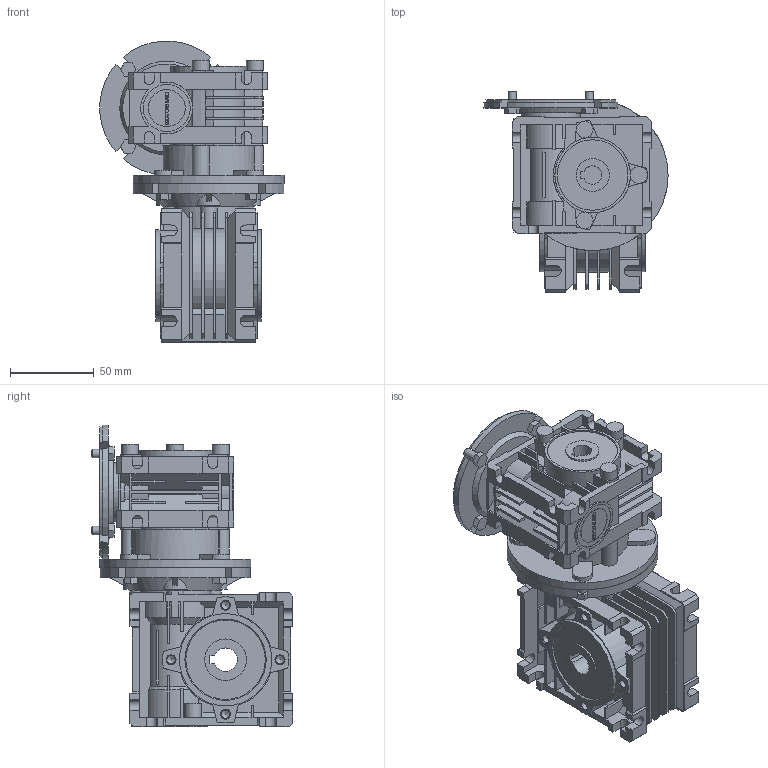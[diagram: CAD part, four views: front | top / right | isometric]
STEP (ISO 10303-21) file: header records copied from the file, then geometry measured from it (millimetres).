
FILE_DESCRIPTION(/* description */ ('STEP AP214'),/* implementation_level */ '2;1');
FILE_NAME(/* name */ 'NMRV-NMRV025-030100 (10x10)812114NO11NO00NO---(--------)',/* time_stamp */ '2024-10-18T09:38:25+02:00',/* author */ ('License CC BY-ND 4.0'),/* organization */ ('CADENAS'),/* preprocessor_version */ 'ST-DEVELOPER v19.3',/* originating_system */ 'PARTsolutions',/* authorisation */ ' ');
FILE_SCHEMA (('AUTOMOTIVE_DESIGN {1 0 10303 214 3 1 1}'));
Length unit declared in the file: millimetre
Products named in the file (14): NMRV-NMRV025-030100 (10x10)812114NO11NO00NO---(--------); 025-030100 (10x10)81211114No11No00NO---(--------)-d; 025-030100 (10x10)812114No11No00NO---d1; 025-030100 (10x10)812114No11No00T0561-d1; Gear unit 30; 030-14 (63)alc-n; VB 030-09 (9); Gear unit 25; 025-11 (50)alc-n; FT 025-030; 30-63 B14; VB 025-09 (9); 25-56 B14; Screw - M6x54
Assembly tree (16 placements, depth 2):
  NMRV-NMRV025-030100 (10x10)812114NO11NO00NO---(--------)
    025-030100 (10x10)81211114No11No00NO---(--------)-d
    025-030100 (10x10)812114No11No00NO---d1
    025-030100 (10x10)812114No11No00T0561-d1  x2
    Gear unit 30
    030-14 (63)alc-n
    VB 030-09 (9)
    Gear unit 25
    025-11 (50)alc-n
    FT 025-030
    30-63 B14
    VB 025-09 (9)
    25-56 B14
    Screw - M6x54  x3
Bounding box: 109.88 x 120 x 179.88 mm (x, y, z)
Volume: 615475.9 mm3; surface area: 209213.8 mm2
Topology: 12 solids, 19 shells, 1407 faces, 3769 edges, 2471 vertices
Faces by surface type: plane 1068, cylinder 288, cone 51
Full cylindrical faces by diameter (mm): 2.031 x3, 3.545 x3, 4.65 x3, 4.917 x8, 5 x8, 6 x3, 6.5 x3, 10 x7, 16 x2, 19 x2, 19.8 x2, 22 x1, 24.8 x2, 28 x1, 30 x4, 32 x1, 35 x1, 37 x1, 38 x1, 42 x1, 45 x3, 50 x1, 55 x2, 60 x2, 90 x1
Entity records: 52603 total; most frequent: CARTESIAN_POINT 7856, ORIENTED_EDGE 7274, DIRECTION 7094, EDGE_CURVE 3637, LINE 2816, VECTOR 2816, VERTEX_POINT 2442, AXIS2_PLACEMENT_3D 2139
